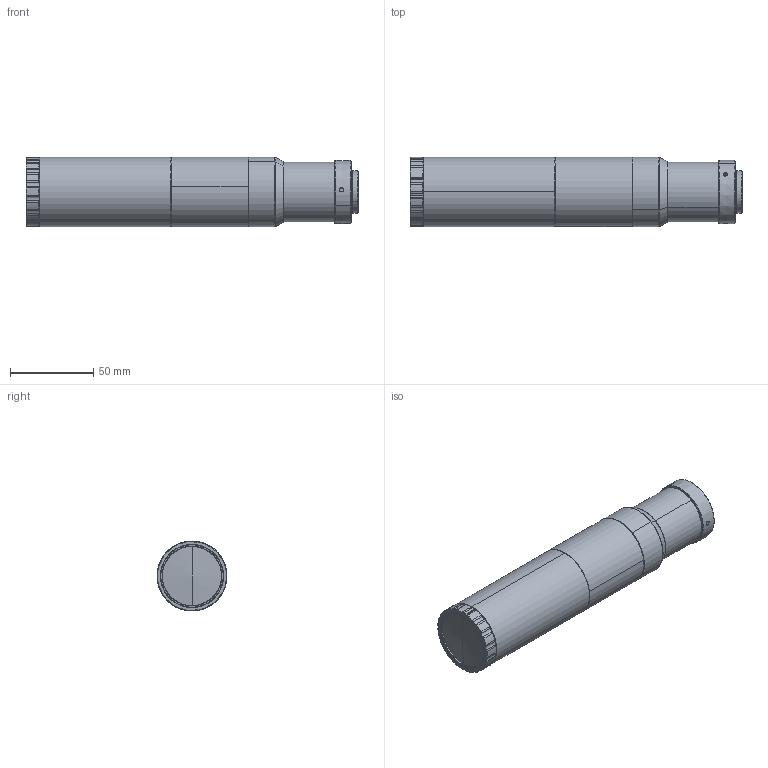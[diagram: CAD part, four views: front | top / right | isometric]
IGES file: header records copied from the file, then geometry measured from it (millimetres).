
Start section: SolidWorks IGES file using analytic representation for surfaces
Bounding box: 199.64 x 42 x 42 mm (x, y, z)
Surface area: 30148.2 mm2 (no closed solid volume)
Topology: 0 solids, 0 shells, 198 faces, 2667 edges, 2663 vertices
Faces by surface type: revolution 163, bspline 35
